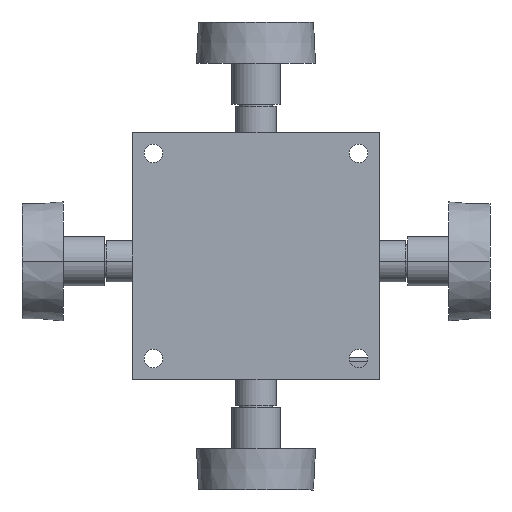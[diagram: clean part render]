
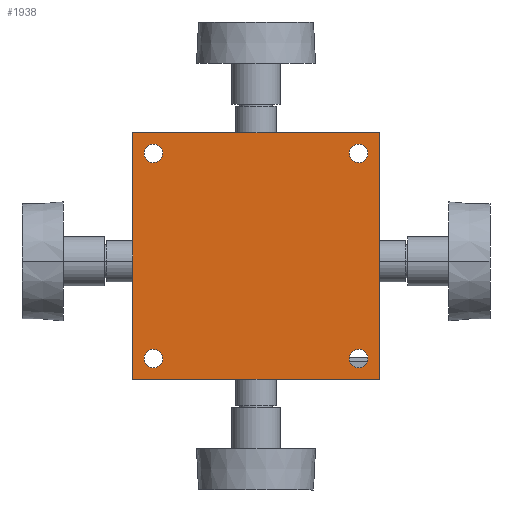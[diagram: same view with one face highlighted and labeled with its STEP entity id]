
A CAD part, front view. The second image highlights one B-rep face of the part: STEP entity #1938.
In plain terms, the highlighted planar face has unit normal (0, -1, 0).
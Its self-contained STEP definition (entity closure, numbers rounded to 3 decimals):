
#1741 = VERTEX_POINT ( 'NONE', #5131 ) ;
#1764 = EDGE_CURVE ( 'NONE', #1765, #1886, #5185, .T. ) ;
#1765 = VERTEX_POINT ( 'NONE', #5181 ) ;
#1818 = EDGE_LOOP ( 'NONE', ( #1819, #1820 ) ) ;
#1819 = ORIENTED_EDGE ( 'NONE', *, *, #1996, .T. ) ;
#1820 = ORIENTED_EDGE ( 'NONE', *, *, #1978, .T. ) ;
#1821 = EDGE_LOOP ( 'NONE', ( #1822, #1841 ) ) ;
#1822 = ORIENTED_EDGE ( 'NONE', *, *, #1988, .T. ) ;
#1841 = ORIENTED_EDGE ( 'NONE', *, *, #1764, .T. ) ;
#1842 = EDGE_LOOP ( 'NONE', ( #1843, #1844 ) ) ;
#1843 = ORIENTED_EDGE ( 'NONE', *, *, #1972, .T. ) ;
#1844 = ORIENTED_EDGE ( 'NONE', *, *, #1898, .T. ) ;
#1845 = EDGE_LOOP ( 'NONE', ( #1846, #1847 ) ) ;
#1846 = ORIENTED_EDGE ( 'NONE', *, *, #2010, .T. ) ;
#1847 = ORIENTED_EDGE ( 'NONE', *, *, #1882, .T. ) ;
#1848 = EDGE_LOOP ( 'NONE', ( #1849, #1853, #1910, #1913 ) ) ;
#1849 = ORIENTED_EDGE ( 'NONE', *, *, #1850, .T. ) ;
#1850 = EDGE_CURVE ( 'NONE', #1851, #1852, #5431, .T. ) ;
#1851 = VERTEX_POINT ( 'NONE', #5427 ) ;
#1852 = VERTEX_POINT ( 'NONE', #5426 ) ;
#1853 = ORIENTED_EDGE ( 'NONE', *, *, #1854, .T. ) ;
#1854 = EDGE_CURVE ( 'NONE', #1852, #1855, #5425, .T. ) ;
#1855 = VERTEX_POINT ( 'NONE', #5421 ) ;
#1882 = EDGE_CURVE ( 'NONE', #1883, #1884, #5492, .T. ) ;
#1883 = VERTEX_POINT ( 'NONE', #5488 ) ;
#1884 = VERTEX_POINT ( 'NONE', #5487 ) ;
#1886 = VERTEX_POINT ( 'NONE', #5485 ) ;
#1898 = EDGE_CURVE ( 'NONE', #1899, #1977, #5532, .T. ) ;
#1899 = VERTEX_POINT ( 'NONE', #5523 ) ;
#1910 = ORIENTED_EDGE ( 'NONE', *, *, #1911, .T. ) ;
#1911 = EDGE_CURVE ( 'NONE', #1855, #1912, #5510, .T. ) ;
#1912 = VERTEX_POINT ( 'NONE', #5506 ) ;
#1913 = ORIENTED_EDGE ( 'NONE', *, *, #1914, .T. ) ;
#1914 = EDGE_CURVE ( 'NONE', #1912, #1851, #5505, .T. ) ;
#1938 = ADVANCED_FACE ( 'NONE', ( #5349, #5348, #5347, #5346, #5345 ), #5344, .F. ) ;
#1972 = EDGE_CURVE ( 'NONE', #1977, #1899, #5308, .T. ) ;
#1977 = VERTEX_POINT ( 'NONE', #5289 ) ;
#1978 = EDGE_CURVE ( 'NONE', #1741, #1979, #5288, .T. ) ;
#1979 = VERTEX_POINT ( 'NONE', #5283 ) ;
#1988 = EDGE_CURVE ( 'NONE', #1886, #1765, #5792, .T. ) ;
#1996 = EDGE_CURVE ( 'NONE', #1979, #1741, #5776, .T. ) ;
#2010 = EDGE_CURVE ( 'NONE', #1884, #1883, #5681, .T. ) ;
#5131 = CARTESIAN_POINT ( 'NONE',  ( -22.75, 0., 25. ) ) ;
#5181 = CARTESIAN_POINT ( 'NONE',  ( 27.25, 0., 25. ) ) ;
#5182 = DIRECTION ( 'NONE',  ( -1., 0., 0. ) ) ;
#5183 = DIRECTION ( 'NONE',  ( 0., 1., 0. ) ) ;
#5184 = AXIS2_PLACEMENT_3D ( 'NONE', #5191, #5183, #5182 ) ;
#5185 = CIRCLE ( 'NONE', #5184, 2.25 ) ;
#5191 = CARTESIAN_POINT ( 'NONE',  ( 25., 0., 25. ) ) ;
#5283 = CARTESIAN_POINT ( 'NONE',  ( -27.25, 0., 25. ) ) ;
#5284 = DIRECTION ( 'NONE',  ( -1., 0., 0. ) ) ;
#5285 = DIRECTION ( 'NONE',  ( 0., 1., 0. ) ) ;
#5286 = CARTESIAN_POINT ( 'NONE',  ( -25., 0., 25. ) ) ;
#5287 = AXIS2_PLACEMENT_3D ( 'NONE', #5286, #5285, #5284 ) ;
#5288 = CIRCLE ( 'NONE', #5287, 2.25 ) ;
#5289 = CARTESIAN_POINT ( 'NONE',  ( 22.75, 0., -25. ) ) ;
#5301 = DIRECTION ( 'NONE',  ( -1., 0., 0. ) ) ;
#5302 = DIRECTION ( 'NONE',  ( 0., 1., 0. ) ) ;
#5303 = CARTESIAN_POINT ( 'NONE',  ( 25., 0., -25. ) ) ;
#5304 = AXIS2_PLACEMENT_3D ( 'NONE', #5303, #5302, #5301 ) ;
#5308 = CIRCLE ( 'NONE', #5304, 2.25 ) ;
#5340 = DIRECTION ( 'NONE',  ( -1., 0., 0. ) ) ;
#5341 = DIRECTION ( 'NONE',  ( 0., 1., 0. ) ) ;
#5342 = CARTESIAN_POINT ( 'NONE',  ( 30., 0., 30. ) ) ;
#5343 = AXIS2_PLACEMENT_3D ( 'NONE', #5342, #5341, #5340 ) ;
#5344 = PLANE ( 'NONE',  #5343 ) ;
#5345 = FACE_OUTER_BOUND ( 'NONE', #1848, .T. ) ;
#5346 = FACE_BOUND ( 'NONE', #1845, .T. ) ;
#5347 = FACE_BOUND ( 'NONE', #1842, .T. ) ;
#5348 = FACE_BOUND ( 'NONE', #1821, .T. ) ;
#5349 = FACE_BOUND ( 'NONE', #1818, .T. ) ;
#5421 = CARTESIAN_POINT ( 'NONE',  ( -30., 0., 30. ) ) ;
#5422 = DIRECTION ( 'NONE',  ( -1., 0., 0. ) ) ;
#5423 = VECTOR ( 'NONE', #5422, 1000. ) ;
#5424 = CARTESIAN_POINT ( 'NONE',  ( 30., 0., 30. ) ) ;
#5425 = LINE ( 'NONE', #5424, #5423 ) ;
#5426 = CARTESIAN_POINT ( 'NONE',  ( 30., 0., 30. ) ) ;
#5427 = CARTESIAN_POINT ( 'NONE',  ( 30., 0., -30. ) ) ;
#5428 = DIRECTION ( 'NONE',  ( 0., 0., 1. ) ) ;
#5429 = VECTOR ( 'NONE', #5428, 1000. ) ;
#5430 = CARTESIAN_POINT ( 'NONE',  ( 30., 0., 30. ) ) ;
#5431 = LINE ( 'NONE', #5430, #5429 ) ;
#5485 = CARTESIAN_POINT ( 'NONE',  ( 22.75, 0., 25. ) ) ;
#5487 = CARTESIAN_POINT ( 'NONE',  ( -27.25, 0., -25. ) ) ;
#5488 = CARTESIAN_POINT ( 'NONE',  ( -22.75, 0., -25. ) ) ;
#5489 = DIRECTION ( 'NONE',  ( -1., 0., 0. ) ) ;
#5490 = DIRECTION ( 'NONE',  ( 0., 1., 0. ) ) ;
#5491 = AXIS2_PLACEMENT_3D ( 'NONE', #5497, #5490, #5489 ) ;
#5492 = CIRCLE ( 'NONE', #5491, 2.25 ) ;
#5497 = CARTESIAN_POINT ( 'NONE',  ( -25., 0., -25. ) ) ;
#5502 = DIRECTION ( 'NONE',  ( 1., 0., 0. ) ) ;
#5503 = VECTOR ( 'NONE', #5502, 1000. ) ;
#5504 = CARTESIAN_POINT ( 'NONE',  ( 30., 0., -30. ) ) ;
#5505 = LINE ( 'NONE', #5504, #5503 ) ;
#5506 = CARTESIAN_POINT ( 'NONE',  ( -30., 0., -30. ) ) ;
#5507 = DIRECTION ( 'NONE',  ( 0., 0., -1. ) ) ;
#5508 = VECTOR ( 'NONE', #5507, 1000. ) ;
#5509 = CARTESIAN_POINT ( 'NONE',  ( -30., 0., 30. ) ) ;
#5510 = LINE ( 'NONE', #5509, #5508 ) ;
#5523 = CARTESIAN_POINT ( 'NONE',  ( 27.25, 0., -25. ) ) ;
#5524 = DIRECTION ( 'NONE',  ( -1., 0., 0. ) ) ;
#5525 = DIRECTION ( 'NONE',  ( 0., 1., 0. ) ) ;
#5526 = CARTESIAN_POINT ( 'NONE',  ( 25., 0., -25. ) ) ;
#5527 = AXIS2_PLACEMENT_3D ( 'NONE', #5526, #5525, #5524 ) ;
#5532 = CIRCLE ( 'NONE', #5527, 2.25 ) ;
#5594 = CARTESIAN_POINT ( 'NONE',  ( 25., 0., 25. ) ) ;
#5678 = DIRECTION ( 'NONE',  ( -1., 0., 0. ) ) ;
#5679 = DIRECTION ( 'NONE',  ( 0., 1., 0. ) ) ;
#5680 = AXIS2_PLACEMENT_3D ( 'NONE', #5687, #5679, #5678 ) ;
#5681 = CIRCLE ( 'NONE', #5680, 2.25 ) ;
#5687 = CARTESIAN_POINT ( 'NONE',  ( -25., 0., -25. ) ) ;
#5773 = DIRECTION ( 'NONE',  ( -1., 0., 0. ) ) ;
#5774 = DIRECTION ( 'NONE',  ( 0., 1., 0. ) ) ;
#5775 = AXIS2_PLACEMENT_3D ( 'NONE', #5781, #5774, #5773 ) ;
#5776 = CIRCLE ( 'NONE', #5775, 2.25 ) ;
#5781 = CARTESIAN_POINT ( 'NONE',  ( -25., 0., 25. ) ) ;
#5789 = DIRECTION ( 'NONE',  ( -1., 0., 0. ) ) ;
#5790 = DIRECTION ( 'NONE',  ( 0., 1., 0. ) ) ;
#5791 = AXIS2_PLACEMENT_3D ( 'NONE', #5594, #5790, #5789 ) ;
#5792 = CIRCLE ( 'NONE', #5791, 2.25 ) ;
